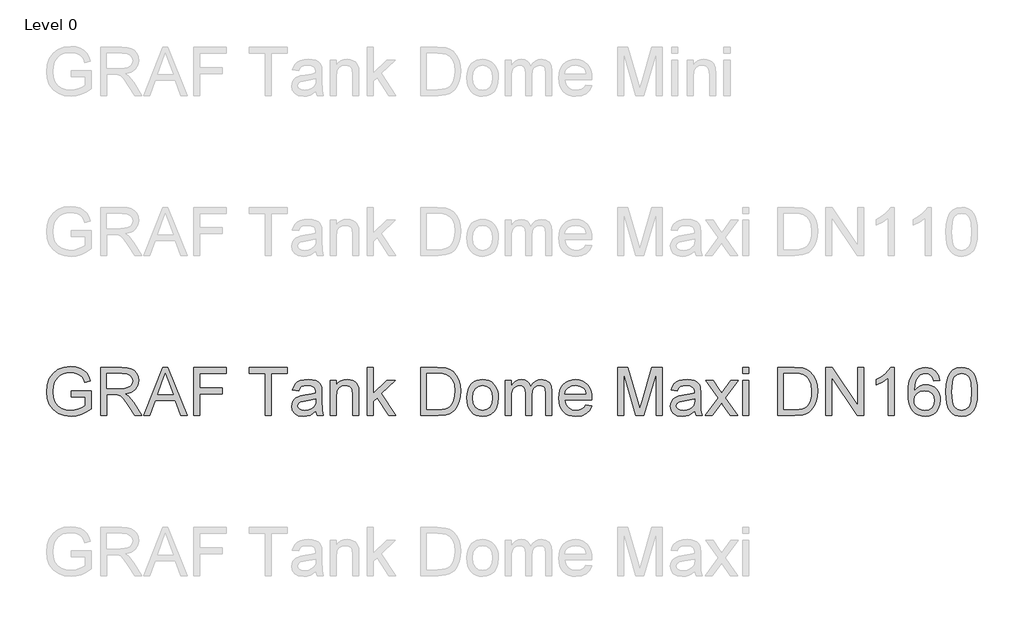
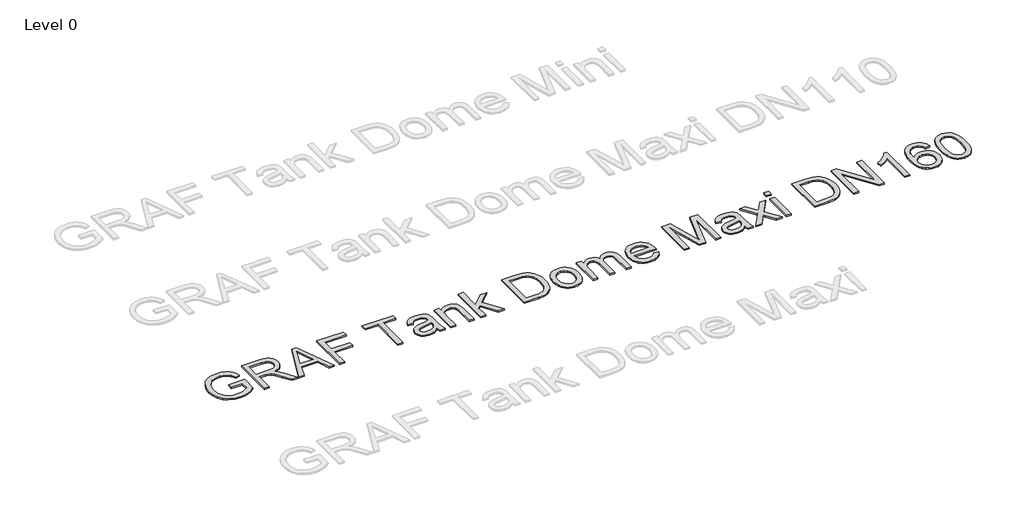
# One storey, part 2 of 19: 1 proxy.
"""IFC4 building model written with IfcOpenShell, lengths in millimetres."""

from ifc_helpers import new_model, si_unit, origin, origin_with_axes, place, context, project, spatial, polyline, outline, extrude, element, save

model = new_model("IFC4")

# Units and contexts
model_context = context("Model", 3, world=origin())
ifc_project = project(units=[si_unit("LENGTHUNIT", "METRE", prefix="MILLI")], contexts=[model_context])

# Site, building, storey
site = spatial("IfcSite", under=ifc_project)
building = spatial("IfcBuilding", under=site)
storey = spatial("IfcBuildingStorey", under=building, Name="Level 0", Elevation=0.0)

# Proxy
placement = place(None, origin())
element("IfcBuildingElementProxy", 1, Name="300mm Arial", ObjectType="300mm Arial", at=placement, inside=storey, context=model_context, shape_type="SweptSolid", body=[
    extrude(outline(polyline([(-15240.9940387, -17082.9794047), (-15240.9940387, -17045.3082884), (-15118.5629107, -17045.3082884), (-15118.5629107, -17157.9537553), (-15148.3153671, -17178.6471176), (-15179.0059225, -17193.4911561), (-15210.5610007, -17202.4306885), (-15242.9070251, -17205.4105327), (-15285.1674693, -17200.674052), (-15323.3628175, -17186.46461), (-15355.0926395, -17163.2788472), (-15377.9565055, -17131.6134045), (-15391.7796715, -17093.6295885), (-15396.3873935, -17051.4887059), (-15391.7980656, -17009.0443207), (-15378.0300819, -16969.5613856), (-15355.6536596, -16936.442809), (-15325.2390156, -16913.0914993), (-15288.1932987, -16899.2407422), (-15245.9236575, -16894.6238232), (-15214.8928112, -16897.3001647), (-15186.9889618, -16905.3291892), (-15163.4904994, -16918.1314827), (-15145.6758138, -16935.1276309), (-15132.4964413, -16957.1361712), (-15122.9039183, -16984.9756412), (-15157.6319786, -16994.7613023), (-15165.3850917, -16974.9048716), (-15174.8120678, -16959.9228773), (-15187.2832674, -16948.6289001), (-15204.169051, -16939.8365204), (-15224.3013932, -16934.1803347), (-15246.5122687, -16932.2949395), (-15272.5123287, -16934.3274875), (-15294.7415982, -16940.4251316), (-15313.1173039, -16949.8245166), (-15327.5566722, -16961.7622873), (-15346.9440533, -16990.7881767), (-15355.7732212, -17019.225455), (-15358.7162772, -17049.9436015), (-15355.175413, -17085.9684459), (-15344.5528204, -17115.6105377), (-15327.1703961, -17138.6583447), (-15303.3500369, -17154.9003348), (-15275.4737787, -17164.529646), (-15245.9236575, -17167.7394164), (-15219.831627, -17165.3205923), (-15194.3833899, -17158.0641199), (-15172.2828791, -17148.0669267), (-15156.234027, -17137.42594), (-15156.234027, -17082.9794047), (-15240.9940387, -17082.9794047)])), origin_with_axes(), (0.0, 0.0, 1.0), 10.0),
    extrude(outline(polyline([(-15057.3473467, -17200.7016432), (-15057.3473467, -16899.3327127), (-14927.4850024, -16899.3327127), (-14892.5821982, -16901.3652607), (-14867.1891434, -16907.4629048), (-14848.6294968, -16918.7200939), (-14834.2269167, -16936.2312768), (-14824.9838815, -16957.9455116), (-14821.9028698, -16981.811856), (-14827.0072325, -17011.4999331), (-14842.3203206, -17036.1112385), (-14853.9200997, -17046.1406214), (-14868.3019865, -17054.1558504), (-14905.4120827, -17064.1438466), (-14884.0013506, -17080.257078), (-14853.467145, -17119.0318402), (-14803.2144645, -17200.7016432), (-14846.9924219, -17200.7016432), (-14886.2086426, -17138.2352804), (-14914.5355562, -17096.8853441), (-14934.4379722, -17077.3508102), (-14952.3538253, -17070.1771113), (-14974.2060158, -17068.8527361), (-15019.6762304, -17068.8527361), (-15019.6762304, -17200.7016432), (-15057.3473467, -17200.7016432)]), holes=[polyline([(-15019.6762304, -17031.1816198), (-14935.3576771, -17031.1816198), (-14911.1418448, -17029.8480476), (-14892.3522719, -17025.8473309), (-14878.2072092, -17018.9127553), (-14867.9249074, -17008.7776063), (-14861.6617165, -16996.5179388), (-14859.5739861, -16983.2098076), (-14863.5563087, -16964.834102), (-14875.5032765, -16950.0268517), (-14896.058683, -16940.2595847), (-14925.8663217, -16937.003829), (-15019.6762304, -16937.003829), (-15019.6762304, -17031.1816198)])]), origin_with_axes(), (0.0, 0.0, 1.0), 10.0),
    extrude(outline(polyline([(-14791.0743586, -17200.7016432), (-14670.7769462, -16899.3327127), (-14638.6976362, -16899.3327127), (-14518.4002238, -17200.7016432), (-14558.2050557, -17200.7016432), (-14592.7123868, -17106.5238524), (-14716.835772, -17106.5238524), (-14751.2695268, -17200.7016432), (-14791.0743586, -17200.7016432)]), holes=[polyline([(-14703.003409, -17068.8527361), (-14606.4711735, -17068.8527361), (-14633.6208647, -16994.7613023), (-14654.7372912, -16937.003829), (-14673.499273, -16988.2865792), (-14703.003409, -17068.8527361)])]), origin_with_axes(), (0.0, 0.0, 1.0), 10.0),
    extrude(outline(polyline([(-14478.1539335, -17200.7016432), (-14478.1539335, -16899.3327127), (-14275.6716834, -16899.3327127), (-14275.6716834, -16937.003829), (-14440.4828172, -16937.003829), (-14440.4828172, -17026.4727303), (-14299.2161311, -17026.4727303), (-14299.2161311, -17064.1438466), (-14440.4828172, -17064.1438466), (-14440.4828172, -17200.7016432), (-14478.1539335, -17200.7016432)])), origin_with_axes(), (0.0, 0.0, 1.0), 10.0),
    extrude(outline(polyline([(-14030.8094274, -17200.7016432), (-14030.8094274, -16937.003829), (-14129.6961077, -16937.003829), (-14129.6961077, -16899.3327127), (-13894.2516308, -16899.3327127), (-13894.2516308, -16937.003829), (-13993.1383111, -16937.003829), (-13993.1383111, -17200.7016432), (-14030.8094274, -17200.7016432)])), origin_with_axes(), (0.0, 0.0, 1.0), 10.0),
    extrude(outline(polyline([(-13715.3138283, -17172.4483059), (-13733.312455, -17187.8809556), (-13751.8445105, -17197.9793164), (-13771.3330592, -17203.5527286), (-13792.2011653, -17205.4105327), (-13823.6826671, -17200.9407665), (-13846.905218, -17187.5314677), (-13861.2250247, -17167.1691993), (-13865.9982936, -17141.8405239), (-13864.1956718, -17126.2239332), (-13858.7878065, -17112.0420823), (-13850.4460822, -17099.9019765), (-13839.8418837, -17090.410621), (-13813.4647447, -17078.049786), (-13780.8703999, -17072.3844033), (-13742.353155, -17066.4247149), (-13715.5345575, -17059.434957), (-13715.3138283, -17051.0472475), (-13717.9073964, -17034.2350404), (-13725.6881006, -17023.2353687), (-13743.088919, -17015.0683884), (-13767.3323425, -17012.3460616), (-13789.7731442, -17014.1578805), (-13805.4449172, -17019.5933369), (-13816.1318891, -17029.6457125), (-13823.6182877, -17045.3082884), (-13861.289404, -17040.5993989), (-13854.7503016, -17019.9980071), (-13844.9922316, -17003.8111994), (-13831.1046863, -16991.4319702), (-13812.1771577, -16982.2533144), (-13789.0281831, -16976.5695376), (-13762.4763001, -16974.6749453), (-13737.009669, -16976.3488084), (-13716.8221445, -16981.3703976), (-13701.601027, -16988.9211756), (-13691.0336167, -16998.1826048), (-13684.0254646, -17009.6329319), (-13679.482122, -17023.7504035), (-13677.642712, -17056.7126303), (-13677.642712, -17103.5807964), (-13675.7297257, -17169.0270034), (-13668.224933, -17200.7016432), (-13705.8960493, -17200.7016432), (-13715.3138283, -17172.4483059)]), holes=[polyline([(-13715.3138283, -17097.1060733), (-13776.0879339, -17108.657568), (-13808.4983377, -17114.7644091), (-13823.1768293, -17124.697223), (-13828.3271773, -17139.1917736), (-13825.522077, -17150.3937803), (-13817.1067764, -17159.5724361), (-13803.2652163, -17165.6976713), (-13784.1813378, -17167.7394164), (-13763.9478281, -17165.4861392), (-13746.0687631, -17158.7263075), (-13731.5742125, -17148.7659025), (-13721.4942459, -17136.9109052), (-13717.0244796, -17124.697223), (-13715.5345575, -17107.7746512), (-13715.3138283, -17097.1060733)])]), origin_with_axes(), (0.0, 0.0, 1.0), 10.0),
    extrude(outline(polyline([(-13625.8449271, -17200.7016432), (-13625.8449271, -16979.3838349), (-13588.1738108, -16979.3838349), (-13588.1738108, -17010.2859225), (-13575.0864088, -16994.70612), (-13559.3686506, -16983.5776896), (-13541.0205361, -16976.9006314), (-13520.0420653, -16974.6749453), (-13501.4732216, -16976.4683701), (-13484.4678764, -16981.8486442), (-13470.2860255, -16990.1443832), (-13460.1876647, -17000.6842024), (-13448.8936874, -17028.3857166), (-13446.9071247, -17064.8060342), (-13446.9071247, -17200.7016432), (-13484.578241, -17200.7016432), (-13484.578241, -17069.8828057), (-13488.9192485, -17036.5526969), (-13494.9249221, -17026.6290801), (-13504.2599277, -17018.9311494), (-13516.2252896, -17013.9923336), (-13530.122032, -17012.3460616), (-13552.1857546, -17016.0432757), (-13570.9937216, -17027.1349178), (-13578.5100106, -17036.1894135), (-13583.8787885, -17048.5640441), (-13588.1738108, -17083.2737103), (-13588.1738108, -17200.7016432), (-13625.8449271, -17200.7016432)])), origin_with_axes(), (0.0, 0.0, 1.0), 10.0),
    extrude(outline(polyline([(-13395.1093397, -17200.7016432), (-13395.1093397, -16899.3327127), (-13357.4382234, -16899.3327127), (-13357.4382234, -17061.274367), (-13272.9725173, -16979.3838349), (-13220.8804268, -16979.3838349), (-13306.3762025, -17062.3044366), (-13216.1715373, -17200.7016432), (-13260.1702239, -17200.7016432), (-13333.3787409, -17088.4976346), (-13357.4382234, -17111.8213531), (-13357.4382234, -17200.7016432), (-13395.1093397, -17200.7016432)])), origin_with_axes(), (0.0, 0.0, 1.0), 10.0),
    extrude(outline(polyline([(-13060.7781825, -17200.7016432), (-13060.7781825, -16899.3327127), (-12956.8147307, -16899.3327127), (-12903.030383, -16903.6737203), (-12879.0076887, -16912.0430357), (-12858.7373908, -16925.2316052), (-12837.8968757, -16948.1874417), (-12823.0528372, -16976.7350845), (-12814.1684871, -17010.3227107), (-12811.207037, -17048.3984972), (-12813.2119939, -17080.7445216), (-12819.2268645, -17109.209391), (-12828.3871262, -17133.4436174), (-12839.8282562, -17153.097713), (-12852.9984316, -17168.6131361), (-12867.3458295, -17180.4313452), (-12883.8177458, -17189.1961338), (-12903.3614768, -17195.5512952), (-12951.8115355, -17200.7016432), (-13060.7781825, -17200.7016432)]), holes=[polyline([(-13023.1070662, -17163.0305269), (-12956.4468487, -17163.0305269), (-12928.8740931, -17161.6693635), (-12907.9600017, -17157.5858733), (-12892.1778641, -17151.0191797), (-12880.0009701, -17142.2084059), (-12866.9135681, -17125.9020365), (-12857.0819218, -17104.794807), (-12850.9290954, -17078.794747), (-12848.8781533, -17047.809886), (-12852.8972641, -17006.7542553), (-12864.9545965, -16976.4407789), (-12882.7692821, -16955.618658), (-12904.0604526, -16943.0370938), (-12925.7287021, -16938.5121452), (-12957.4769183, -16937.003829), (-13023.1070662, -16937.003829), (-13023.1070662, -17163.0305269)])]), origin_with_axes(), (0.0, 0.0, 1.0), 10.0),
    extrude(outline(polyline([(-12773.5359207, -17090.042739), (-12771.4987741, -17061.3801331), (-12765.3873345, -17036.6814556), (-12755.2016018, -17015.9467067), (-12740.9415759, -16999.1758862), (-12726.5849811, -16988.4567246), (-12710.7384641, -16980.8001806), (-12693.4020251, -16976.2062541), (-12674.575664, -16974.6749453), (-12653.7926305, -16976.5396472), (-12635.0007584, -16982.1337528), (-12618.2000475, -16991.4572621), (-12603.3904979, -17004.5101751), (-12591.3032751, -17020.8510335), (-12582.6695445, -17040.0383788), (-12577.4893062, -17062.0722111), (-12575.7625601, -17086.9525303), (-12578.8159806, -17125.0099227), (-12587.9762423, -17153.9806298), (-12602.9766307, -17175.6764705), (-12623.5504313, -17191.9092635), (-12647.9869928, -17202.0352154), (-12674.575664, -17205.4105327), (-12695.6622001, -17203.5527286), (-12714.6288162, -17197.9793164), (-12731.4755123, -17188.690296), (-12746.2022884, -17175.6856675), (-12758.1607526, -17159.18616), (-12766.7025126, -17139.4125028), (-12771.8275687, -17116.3646958), (-12773.5359207, -17090.042739)]), holes=[polyline([(-12735.8648044, -17089.9691626), (-12731.5054027, -17124.0626265), (-12718.4271978, -17148.3520353), (-12698.7455111, -17162.8925711), (-12674.575664, -17167.7394164), (-12650.5161815, -17162.86498), (-12630.871283, -17148.2416707), (-12617.793078, -17123.6303652), (-12613.4336764, -17088.7919402), (-12617.8206692, -17055.6917577), (-12630.9816476, -17031.7334428), (-12650.6541372, -17017.1929069), (-12674.575664, -17012.3460616), (-12698.7455111, -17017.1745128), (-12718.4271978, -17031.6598664), (-12731.5054027, -17055.8940928), (-12735.8648044, -17089.9691626)])]), origin_with_axes(), (0.0, 0.0, 1.0), 10.0),
    extrude(outline(polyline([(-12533.3825542, -17200.7016432), (-12533.3825542, -16979.3838349), (-12495.7114379, -16979.3838349), (-12495.7114379, -17015.8041524), (-12484.3806725, -16999.0747187), (-12469.8125455, -16985.9689226), (-12452.5036976, -16977.4984396), (-12432.9507696, -16974.6749453), (-12411.9998899, -16977.5536219), (-12395.2060768, -16986.1896518), (-12382.6613008, -17000.0128178), (-12374.4575323, -17018.4529028), (-12360.7263368, -16999.3000464), (-12345.0637609, -16985.6194347), (-12327.4698045, -16977.4110677), (-12307.9444676, -16974.6749453), (-12279.626751, -16979.227485), (-12258.6850684, -16992.8851041), (-12245.7448193, -17016.0156845), (-12241.4314029, -17048.9871084), (-12241.4314029, -17200.7016432), (-12279.1025192, -17200.7016432), (-12279.1025192, -17065.1739161), (-12282.5973981, -17033.7200056), (-12287.5086228, -17025.0471875), (-12295.2525388, -17018.2321736), (-12305.2129438, -17013.8175896), (-12316.7736355, -17012.3460616), (-12337.1818892, -17016.1168521), (-12353.8193524, -17027.4292234), (-12364.8834034, -17047.0557279), (-12368.5714204, -17075.7689176), (-12368.5714204, -17200.7016432), (-12406.2425367, -17200.7016432), (-12406.2425367, -17060.9800614), (-12408.4222375, -17039.6796939), (-12414.96134, -17024.4861675), (-12426.4668494, -17015.3810881), (-12443.545771, -17012.3460616), (-12458.0587157, -17014.3694126), (-12471.4312262, -17020.4394655), (-12482.4676861, -17030.4090676), (-12489.9724788, -17044.131066), (-12494.2766981, -17063.1689593), (-12495.7114379, -17089.0862458), (-12495.7114379, -17200.7016432), (-12533.3825542, -17200.7016432)])), origin_with_axes(), (0.0, 0.0, 1.0), 10.0),
    extrude(outline(polyline([(-12029.972832, -17134.7771896), (-11993.0374797, -17139.4860792), (-12006.3456109, -17167.3163521), (-12027.5815991, -17188.1200789), (-12056.2671976, -17201.0879193), (-12091.92416, -17205.4105327), (-12115.2984623, -17203.5458308), (-12136.1251817, -17197.9517253), (-12154.4043184, -17188.6282159), (-12170.1358722, -17175.5753029), (-12182.7864143, -17159.1562696), (-12191.8225158, -17139.7343995), (-12197.2441767, -17117.3096927), (-12199.051397, -17091.882149), (-12197.2257826, -17065.5923819), (-12191.7489394, -17042.4204147), (-12182.6208674, -17022.3662475), (-12169.8415666, -17005.4298801), (-12154.1513995, -16991.9745962), (-12136.2907286, -16982.363679), (-12116.259554, -16976.5971288), (-12094.0578756, -16974.6749453), (-12072.5712678, -16976.5925302), (-12053.1402007, -16982.3452849), (-12035.7646742, -16991.9332094), (-12020.4446884, -17005.3563037), (-12007.9389998, -17022.2558829), (-11999.0063651, -17042.2732619), (-11993.6467843, -17065.4084409), (-11991.8602573, -17091.6614198), (-11992.0809865, -17101.8149629), (-12161.3802807, -17101.8149629), (-12154.8595723, -17130.0131178), (-12139.7120312, -17150.7432682), (-12117.8506436, -17163.4903794), (-12091.188396, -17167.7394164), (-12071.1388273, -17165.7712477), (-12054.2530437, -17159.8667417), (-12040.5310453, -17149.6580163), (-12029.972832, -17134.7771896)]), holes=[polyline([(-12161.3802807, -17064.1438466), (-12029.5313736, -17064.1438466), (-12034.6265393, -17044.2414306), (-12044.6145354, -17030.0043974), (-12066.5770906, -17016.7606456), (-12094.2050284, -17012.3460616), (-12119.5980831, -17015.8685317), (-12140.594948, -17026.4359421), (-12155.1906661, -17042.9078584), (-12161.3802807, -17064.1438466)])]), origin_with_axes(), (0.0, 0.0, 1.0), 10.0),
    extrude(outline(polyline([(-11831.758013, -17200.7016432), (-11831.758013, -16899.3327127), (-11766.9372055, -16899.3327127), (-11705.2801831, -17111.7477767), (-11692.8457717, -17156.1143454), (-11679.3812906, -17108.0689568), (-11618.7543378, -16899.3327127), (-11553.9335303, -16899.3327127), (-11553.9335303, -17200.7016432), (-11591.6046466, -17200.7016432), (-11591.6046466, -16937.003829), (-11667.3147612, -17200.7016432), (-11718.3767821, -17200.7016432), (-11794.0868967, -16937.003829), (-11794.0868967, -17200.7016432), (-11831.758013, -17200.7016432)])), origin_with_axes(), (0.0, 0.0, 1.0), 10.0),
    extrude(outline(polyline([(-11351.4512801, -17172.4483059), (-11369.4499067, -17187.8809556), (-11387.9819623, -17197.9793164), (-11407.4705109, -17203.5527286), (-11428.3386171, -17205.4105327), (-11459.8201189, -17200.9407665), (-11483.0426698, -17187.5314677), (-11497.3624765, -17167.1691993), (-11502.1357454, -17141.8405239), (-11500.3331236, -17126.2239332), (-11494.9252582, -17112.0420823), (-11486.583534, -17099.9019765), (-11475.9793355, -17090.410621), (-11449.6021964, -17078.049786), (-11417.0078517, -17072.3844033), (-11378.4906068, -17066.4247149), (-11351.6720093, -17059.434957), (-11351.4512801, -17051.0472475), (-11354.0448482, -17034.2350404), (-11361.8255524, -17023.2353687), (-11379.2263708, -17015.0683884), (-11403.4697942, -17012.3460616), (-11425.910596, -17014.1578805), (-11441.5823689, -17019.5933369), (-11452.2693409, -17029.6457125), (-11459.7557395, -17045.3082884), (-11497.4268558, -17040.5993989), (-11490.8877534, -17019.9980071), (-11481.1296834, -17003.8111994), (-11467.2421381, -16991.4319702), (-11448.3146095, -16982.2533144), (-11425.1656349, -16976.5695376), (-11398.6137519, -16974.6749453), (-11373.1471208, -16976.3488084), (-11352.9595963, -16981.3703976), (-11337.7384788, -16988.9211756), (-11327.1710684, -16998.1826048), (-11320.1629164, -17009.6329319), (-11315.6195738, -17023.7504035), (-11313.7801638, -17056.7126303), (-11313.7801638, -17103.5807964), (-11311.8671774, -17169.0270034), (-11304.3623847, -17200.7016432), (-11342.0335011, -17200.7016432), (-11351.4512801, -17172.4483059)]), holes=[polyline([(-11351.4512801, -17097.1060733), (-11412.2253857, -17108.657568), (-11444.6357895, -17114.7644091), (-11459.3142811, -17124.697223), (-11464.464629, -17139.1917736), (-11461.6595288, -17150.3937803), (-11453.2442282, -17159.5724361), (-11439.4026681, -17165.6976713), (-11420.3187896, -17167.7394164), (-11400.0852799, -17165.4861392), (-11382.2062149, -17158.7263075), (-11367.7116643, -17148.7659025), (-11357.6316976, -17136.9109052), (-11353.1619314, -17124.697223), (-11351.6720093, -17107.7746512), (-11351.4512801, -17097.1060733)])]), origin_with_axes(), (0.0, 0.0, 1.0), 10.0),
    extrude(outline(polyline([(-11285.5268266, -17200.7016432), (-11205.0342461, -17089.4541278), (-11280.8179371, -16979.3838349), (-11235.4948753, -16979.3838349), (-11198.9274049, -17032.3588422), (-11181.8576804, -17057.3748179), (-11167.0688241, -17036.9205789), (-11125.4245823, -16979.3838349), (-11080.1015205, -16979.3838349), (-11159.7111842, -17089.4541278), (-11083.0445764, -17200.7016432), (-11128.3676383, -17200.7016432), (-11174.5000405, -17133.8206964), (-11182.9613263, -17121.6070142), (-11240.2037648, -17200.7016432), (-11285.5268266, -17200.7016432)])), origin_with_axes(), (0.0, 0.0, 1.0), 10.0),
    extrude(outline(polyline([(-11050.0823497, -16937.003829), (-11050.0823497, -16899.3327127), (-11012.4112334, -16899.3327127), (-11012.4112334, -16937.003829), (-11050.0823497, -16937.003829)])), origin_with_axes(), (0.0, 0.0, 1.0), 10.0),
    extrude(outline(polyline([(-11050.0823497, -17200.7016432), (-11050.0823497, -16979.3838349), (-11012.4112334, -16979.3838349), (-11012.4112334, -17200.7016432), (-11050.0823497, -17200.7016432)])), origin_with_axes(), (0.0, 0.0, 1.0), 10.0),
    extrude(outline(polyline([(-10833.4734309, -17200.7016432), (-10833.4734309, -16899.3327127), (-10729.5099791, -16899.3327127), (-10675.7256314, -16903.6737203), (-10651.7029371, -16912.0430357), (-10631.4326392, -16925.2316052), (-10610.5921241, -16948.1874417), (-10595.7480856, -16976.7350845), (-10586.8637355, -17010.3227107), (-10583.9022854, -17048.3984972), (-10585.9072423, -17080.7445216), (-10591.9221129, -17109.209391), (-10601.0823746, -17133.4436174), (-10612.5235046, -17153.097713), (-10625.69368, -17168.6131361), (-10640.0410779, -17180.4313452), (-10656.5129942, -17189.1961338), (-10676.0567252, -17195.5512952), (-10724.506784, -17200.7016432), (-10833.4734309, -17200.7016432)]), holes=[polyline([(-10795.8023146, -17163.0305269), (-10729.1420971, -17163.0305269), (-10701.5693416, -17161.6693635), (-10680.6552501, -17157.5858733), (-10664.8731125, -17151.0191797), (-10652.6962185, -17142.2084059), (-10639.6088165, -17125.9020365), (-10629.7771702, -17104.794807), (-10623.6243438, -17078.794747), (-10621.5734017, -17047.809886), (-10625.5925125, -17006.7542553), (-10637.6498449, -16976.4407789), (-10655.4645305, -16955.618658), (-10676.755701, -16943.0370938), (-10698.4239505, -16938.5121452), (-10730.1721667, -16937.003829), (-10795.8023146, -16937.003829), (-10795.8023146, -17163.0305269)])]), origin_with_axes(), (0.0, 0.0, 1.0), 10.0),
    extrude(outline(polyline([(-10532.1045005, -17200.7016432), (-10532.1045005, -16899.3327127), (-10491.7846338, -16899.3327127), (-10334.3311399, -17138.0881276), (-10334.3311399, -16899.3327127), (-10296.6600236, -16899.3327127), (-10296.6600236, -17200.7016432), (-10336.9798902, -17200.7016432), (-10494.4333842, -16961.8726519), (-10494.4333842, -17200.7016432), (-10532.1045005, -17200.7016432)])), origin_with_axes(), (0.0, 0.0, 1.0), 10.0),
    extrude(outline(polyline([(-10103.5955525, -17200.7016432), (-10141.2666688, -17200.7016432), (-10141.2666688, -16965.8457775), (-10176.9512223, -16991.2664233), (-10216.6089014, -17010.2859225), (-10216.6089014, -16974.6749453), (-10187.0219919, -16958.580108), (-10161.3898139, -16939.4318502), (-10141.1838953, -16919.0695818), (-10127.8757642, -16899.3327127), (-10103.5955525, -16899.3327127), (-10103.5955525, -17200.7016432)])), origin_with_axes(), (0.0, 0.0, 1.0), 10.0),
    extrude(outline(polyline([(-9821.0621802, -16979.3838349), (-9858.7332965, -16984.0927244), (-9864.8033494, -16965.4227132), (-9873.0071179, -16952.675602), (-9890.0952366, -16940.9217723), (-9910.7518106, -16937.003829), (-9928.2629936, -16939.2846974), (-9944.744107, -16946.1273025), (-9958.8983667, -16960.5390797), (-9970.4590584, -16980.3771163), (-9978.2673538, -17008.4373154), (-9981.1644245, -17047.5155804), (-9966.0536715, -17029.8848358), (-9947.9446803, -17017.4596214), (-9927.8491263, -17010.0927844), (-9906.7786851, -17007.6371721), (-9888.6788909, -17009.3156337), (-9871.9770483, -17014.3510185), (-9856.6731573, -17022.7433265), (-9842.7672179, -17034.4925578), (-9831.2111247, -17048.8997364), (-9822.9567725, -17065.2658866), (-9818.0041611, -17083.5910085), (-9816.3532907, -17103.875102), (-9819.4618935, -17130.8500493), (-9828.7877021, -17155.856828), (-9843.5581642, -17177.065225), (-9863.0007276, -17192.6450275), (-9886.2324756, -17202.2191564), (-9912.3704914, -17205.4105327), (-9934.8273879, -17203.2952112), (-9955.1091822, -17196.9492468), (-9973.2158741, -17186.3726395), (-9989.1474638, -17171.5653892), (-10002.1359975, -17151.9020965), (-10011.4135215, -17126.7573621), (-10016.980036, -17096.131186), (-10018.8355408, -17060.0235682), (-10016.7754016, -17019.5427532), (-10010.5949841, -16984.9940353), (-10000.2942882, -16956.3774146), (-9985.873314, -16933.6928911), (-9970.2429278, -16918.660313), (-9952.120141, -16907.9227573), (-9931.5049537, -16901.4802239), (-9908.3973659, -16899.3327127), (-9875.3431686, -16904.6486076), (-9848.874059, -16920.596292), (-9830.3328065, -16945.9249674), (-9821.0621802, -16979.3838349)]), holes=[polyline([(-9981.1644245, -17103.2864908), (-9978.9847237, -17119.9791364), (-9972.4456212, -17135.9176238), (-9962.2920781, -17149.6212281), (-9949.2690555, -17159.6092243), (-9933.5512973, -17165.7068684), (-9915.3135474, -17167.7394164), (-9890.4539215, -17163.5271676), (-9870.9101905, -17150.890421), (-9858.2458529, -17131.0247933), (-9854.024407, -17105.1259008), (-9858.1906706, -17080.266275), (-9870.6894613, -17061.3111552), (-9890.5642861, -17049.3090051), (-9916.8586517, -17045.3082884), (-9941.6814894, -17049.3090051), (-9962.4392309, -17061.3111552), (-9976.4831261, -17079.8064225), (-9981.1644245, -17103.2864908)])]), origin_with_axes(), (0.0, 0.0, 1.0), 10.0),
    extrude(outline(polyline([(-9783.3910639, -17052.4451991), (-9780.6227519, -17004.2066725), (-9772.3178158, -16965.7354129), (-9758.5590292, -16936.442809), (-9739.4291655, -16915.7402497), (-9714.7902688, -16903.434597), (-9684.5043836, -16899.3327127), (-9661.2910297, -16901.7607339), (-9640.505697, -16909.0447974), (-9623.1232727, -16920.8997947), (-9610.1186442, -16937.0406172), (-9600.2961949, -16957.3293093), (-9592.4603084, -16981.627915), (-9587.3283546, -17012.4840174), (-9585.6177033, -17052.4451991), (-9588.3584241, -17100.4078142), (-9596.5805867, -17138.7871034), (-9610.2565999, -17168.1072984), (-9629.3588725, -17188.8926311), (-9654.0529514, -17201.2810573), (-9684.5043836, -17205.4105327), (-9705.2529281, -17203.617108), (-9723.6470279, -17198.2368338), (-9739.6866829, -17189.2697102), (-9753.3718931, -17176.7157371), (-9766.5052803, -17154.0220165), (-9775.8862712, -17125.7456867), (-9781.5148657, -17091.8867475), (-9783.3910639, -17052.4451991)]), holes=[polyline([(-9745.7199476, -17052.3716227), (-9741.3053636, -17111.6282151), (-9735.7871337, -17131.8962138), (-9728.0616118, -17145.9240141), (-9708.3431369, -17162.2855658), (-9684.5043836, -17167.7394164), (-9660.6656303, -17162.2671717), (-9640.9471554, -17145.8504377), (-9633.2216335, -17131.7996447), (-9627.7034035, -17111.5362446), (-9623.2888196, -17052.3716227), (-9627.5562507, -16994.4486026), (-9632.8905397, -16974.2472825), (-9640.3585442, -16959.8860891), (-9660.0402309, -16942.7243941), (-9684.945842, -16937.003829), (-9708.5270779, -16942.0438124), (-9727.4730006, -16957.1637624), (-9735.4560399, -16972.7987472), (-9741.1582108, -16993.8783855), (-9745.7199476, -17052.3716227)])]), origin_with_axes(), (0.0, 0.0, 1.0), 10.0),
])

save(model, "model.ifc")
